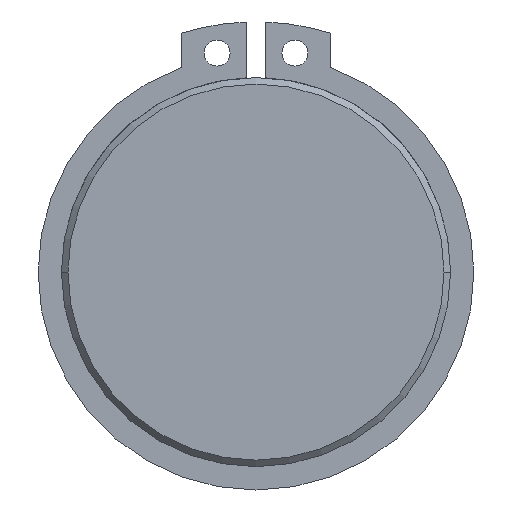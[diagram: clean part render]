
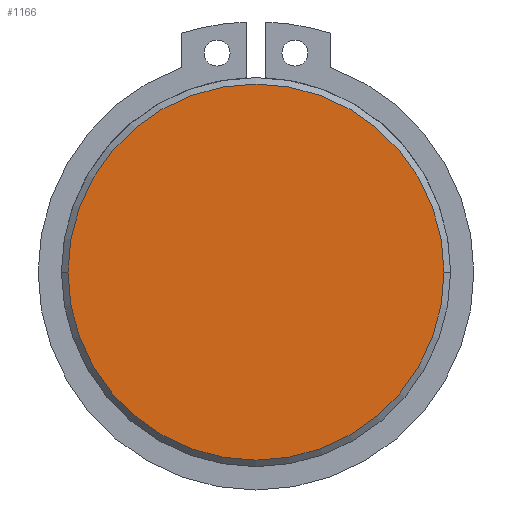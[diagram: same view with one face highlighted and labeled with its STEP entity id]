
A CAD part, left-side view. The second image highlights one B-rep face of the part: STEP entity #1166.
In plain terms, the highlighted planar face has unit normal (-1, 0, 0).
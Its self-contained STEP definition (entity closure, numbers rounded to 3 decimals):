
#439=CARTESIAN_POINT('',(-90.,0.,0.));
#440=DIRECTION('',(-1.,0.,0.));
#441=DIRECTION('',(0.,1.,0.));
#442=AXIS2_PLACEMENT_3D('',#439,#440,#441);
#444=CARTESIAN_POINT('',(-90.,0.,0.));
#445=DIRECTION('',(-1.,0.,0.));
#446=DIRECTION('',(0.,-1.,0.));
#447=AXIS2_PLACEMENT_3D('',#444,#445,#446);
#573=CARTESIAN_POINT('',(-90.,14.5,0.));
#574=CARTESIAN_POINT('',(-90.,-14.5,0.));
#575=VERTEX_POINT('',#573);
#576=VERTEX_POINT('',#574);
#1156=CARTESIAN_POINT('',(-90.,0.,0.));
#1157=DIRECTION('',(1.,0.,0.));
#1158=DIRECTION('',(0.,-1.,0.));
#1159=AXIS2_PLACEMENT_3D('',#1156,#1157,#1158);
#1160=PLANE('',#1159);
#1162=ORIENTED_EDGE('',*,*,#1161,.F.);
#1163=ORIENTED_EDGE('',*,*,#1146,.F.);
#1164=EDGE_LOOP('',(#1162,#1163));
#1165=FACE_OUTER_BOUND('',#1164,.F.);
#1166=ADVANCED_FACE('',(#1165),#1160,.F.);
#443=CIRCLE('',#442,14.5);
#448=CIRCLE('',#447,14.5);
#1146=EDGE_CURVE('',#576,#575,#448,.T.);
#1161=EDGE_CURVE('',#575,#576,#443,.T.);
